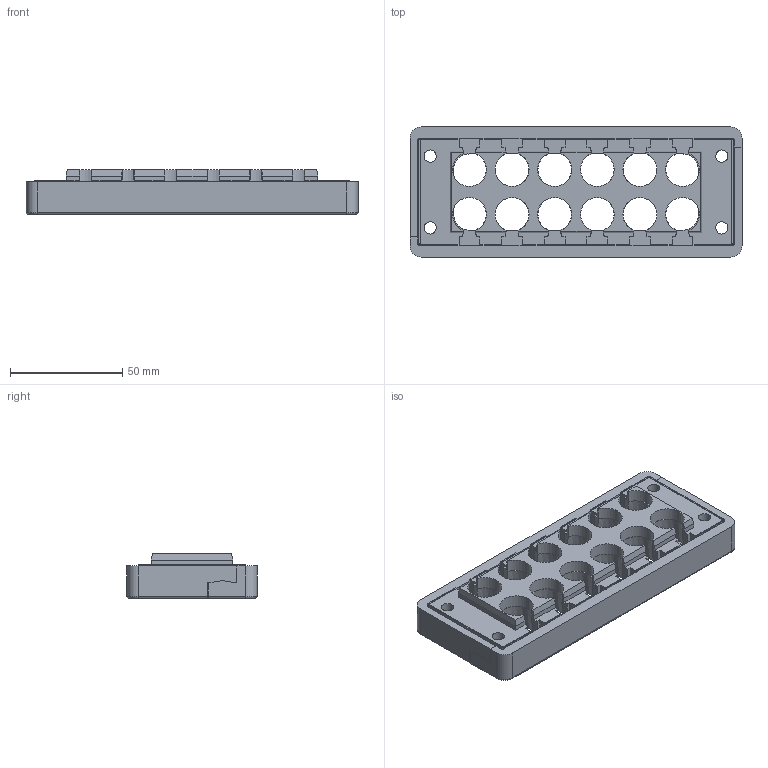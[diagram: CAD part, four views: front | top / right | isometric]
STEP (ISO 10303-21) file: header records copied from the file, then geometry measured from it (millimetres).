
FILE_DESCRIPTION(/* description */ (''),/* implementation_level */ '2;1');
FILE_NAME(/* name */ 'H:\SapWorkDir\Inventor\MP1\ConvertTempPath\87_11_121447_00_A_220617_KDL-C 24-12 ZSB.stp',/* time_stamp */ '2022-06-17T18:38:28+02:00',/* author */ ('BAUER'),/* organization */ (''),/* preprocessor_version */ 'ST-DEVELOPER v16.13',/* originating_system */ 'Autodesk Inventor 2018',/* authorisation */ '');
FILE_SCHEMA (('AUTOMOTIVE_DESIGN { 1 0 10303 214 3 1 1 }'));
Length unit declared in the file: millimetre
Products named in the file (3): 121447; 121391; Block2x6 neu
Assembly tree (3 placements, depth 2):
  121447
    121391  x2
    Block2x6 neu
Bounding box: 148 x 58 x 20 mm (x, y, z)
Volume: 85612 mm3; surface area: 46703.5 mm2
Topology: 3 solids, 3 shells, 1159 faces, 3186 edges, 2112 vertices
Faces by surface type: plane 792, cylinder 204, bspline 133, torus 16, cone 14
Full cylindrical faces by diameter (mm): 5 x4, 5.5 x10, 6 x2, 7 x4, 8 x4, 9 x4
Entity records: 27235 total; most frequent: CARTESIAN_POINT 5843, ORIENTED_EDGE 4612, DIRECTION 4062, EDGE_CURVE 2306, LINE 1700, VECTOR 1700, VERTEX_POINT 1535, AXIS2_PLACEMENT_3D 1181
